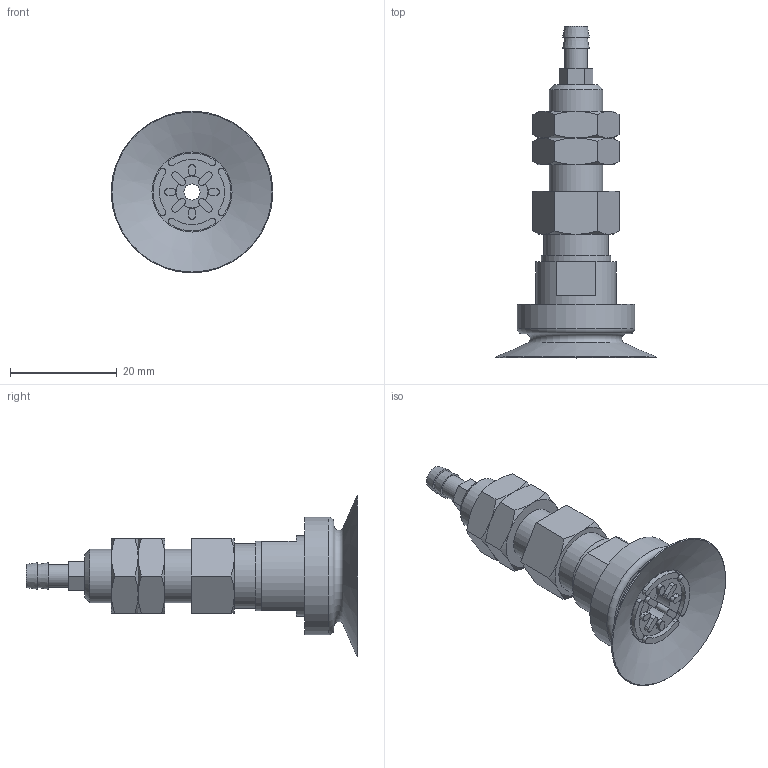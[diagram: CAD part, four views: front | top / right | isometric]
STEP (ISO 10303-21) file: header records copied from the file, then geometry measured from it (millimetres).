
FILE_DESCRIPTION(('STEP AP203'),'1');
FILE_NAME('.stp','2024-07-08T07:57:23',(' '),(' '),'Spatial InterOp 3D',' ',' ');
FILE_SCHEMA(('CONFIG_CONTROL_DESIGN'));
Length unit declared in the file: millimetre
Products named in the file (4): BBPATK-30-※; Nut-25-; PATK-30; BPAG-30-※_3D
Assembly tree (4 placements, depth 2):
  BBPATK-30-※
    Nut-25-  x2
    PATK-30
    BPAG-30-※_3D
Bounding box: 30.3 x 62.2 x 30.3 mm (x, y, z)
Volume: 8344.2 mm3; surface area: 6562.2 mm2
Topology: 4 solids, 4 shells, 172 faces, 402 edges, 255 vertices
Faces by surface type: plane 77, cylinder 50, cone 43, torus 2
Full cylindrical faces by diameter (mm): 3 x2, 4.134 x1, 4.26 x1, 4.6 x1, 4.917 x1, 6 x1, 8.376 x2, 10 x1, 12 x1, 13 x1, 15 x1, 22 x1
Entity records: 4660 total; most frequent: CARTESIAN_POINT 1062, DIRECTION 738, ORIENTED_EDGE 648, EDGE_CURVE 324, AXIS2_PLACEMENT_3D 296, VERTEX_POINT 224, EDGE_LOOP 198, FACE_OUTER_BOUND 164
